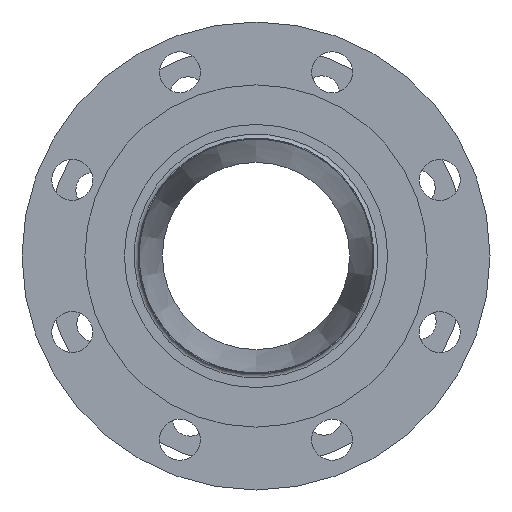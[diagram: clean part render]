
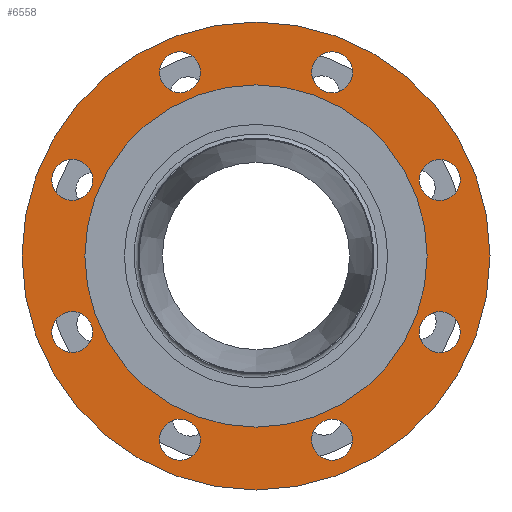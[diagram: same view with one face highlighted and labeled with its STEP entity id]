
A CAD part, front view. The second image highlights one B-rep face of the part: STEP entity #6558.
In plain terms, the highlighted planar face has unit normal (0, -1, 0) as drawn and (0, 1, 0) by its records, which use the part's own axes.
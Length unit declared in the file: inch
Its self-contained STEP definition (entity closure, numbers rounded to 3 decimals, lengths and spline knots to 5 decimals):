
#6219=CARTESIAN_POINT('',(-1.31705,0.6875,4.23585));
#6220=VERTEX_POINT('',#6219);
#6221=CARTESIAN_POINT('',(-1.6264,0.6875,3.92649));
#6222=DIRECTION('',(0.0,-1.0,0.0));
#6223=DIRECTION('',(0.707,0.0,0.707));
#6224=AXIS2_PLACEMENT_3D('',#6221,#6222,#6223);
#6225=CIRCLE('',#6224,0.4375);
#6226=EDGE_CURVE('',#6220,#6220,#6225,.T.);
#6247=CARTESIAN_POINT('',(-3.92649,0.6875,2.0639));
#6248=VERTEX_POINT('',#6247);
#6249=CARTESIAN_POINT('',(-3.92649,0.6875,1.6264));
#6250=DIRECTION('',(0.0,-1.0,0.0));
#6251=DIRECTION('',(0.0,0.0,1.0));
#6252=AXIS2_PLACEMENT_3D('',#6249,#6250,#6251);
#6253=CIRCLE('',#6252,0.4375);
#6254=EDGE_CURVE('',#6248,#6248,#6253,.T.);
#6275=CARTESIAN_POINT('',(-4.23585,0.6875,-1.31705));
#6276=VERTEX_POINT('',#6275);
#6277=CARTESIAN_POINT('',(-3.92649,0.6875,-1.6264));
#6278=DIRECTION('',(0.0,-1.0,0.0));
#6279=DIRECTION('',(-0.707,0.0,0.707));
#6280=AXIS2_PLACEMENT_3D('',#6277,#6278,#6279);
#6281=CIRCLE('',#6280,0.4375);
#6282=EDGE_CURVE('',#6276,#6276,#6281,.T.);
#6303=CARTESIAN_POINT('',(-2.0639,0.6875,-3.92649));
#6304=VERTEX_POINT('',#6303);
#6305=CARTESIAN_POINT('',(-1.6264,0.6875,-3.92649));
#6306=DIRECTION('',(0.0,-1.0,0.0));
#6307=DIRECTION('',(-1.0,0.0,0.0));
#6308=AXIS2_PLACEMENT_3D('',#6305,#6306,#6307);
#6309=CIRCLE('',#6308,0.4375);
#6310=EDGE_CURVE('',#6304,#6304,#6309,.T.);
#6331=CARTESIAN_POINT('',(1.31705,0.6875,-4.23585));
#6332=VERTEX_POINT('',#6331);
#6333=CARTESIAN_POINT('',(1.6264,0.6875,-3.92649));
#6334=DIRECTION('',(0.0,-1.0,0.0));
#6335=DIRECTION('',(-0.707,0.0,-0.707));
#6336=AXIS2_PLACEMENT_3D('',#6333,#6334,#6335);
#6337=CIRCLE('',#6336,0.4375);
#6338=EDGE_CURVE('',#6332,#6332,#6337,.T.);
#6359=CARTESIAN_POINT('',(3.92649,0.6875,-2.0639));
#6360=VERTEX_POINT('',#6359);
#6361=CARTESIAN_POINT('',(3.92649,0.6875,-1.6264));
#6362=DIRECTION('',(0.0,-1.0,0.0));
#6363=DIRECTION('',(0.0,0.0,-1.0));
#6364=AXIS2_PLACEMENT_3D('',#6361,#6362,#6363);
#6365=CIRCLE('',#6364,0.4375);
#6366=EDGE_CURVE('',#6360,#6360,#6365,.T.);
#6387=CARTESIAN_POINT('',(4.23585,0.6875,1.31705));
#6388=VERTEX_POINT('',#6387);
#6389=CARTESIAN_POINT('',(3.92649,0.6875,1.6264));
#6390=DIRECTION('',(0.0,-1.0,0.0));
#6391=DIRECTION('',(0.707,0.0,-0.707));
#6392=AXIS2_PLACEMENT_3D('',#6389,#6390,#6391);
#6393=CIRCLE('',#6392,0.4375);
#6394=EDGE_CURVE('',#6388,#6388,#6393,.T.);
#6415=CARTESIAN_POINT('',(2.0639,0.6875,3.92649));
#6416=VERTEX_POINT('',#6415);
#6417=CARTESIAN_POINT('',(1.6264,0.6875,3.92649));
#6418=DIRECTION('',(0.0,-1.0,0.0));
#6419=DIRECTION('',(1.0,0.0,0.0));
#6420=AXIS2_PLACEMENT_3D('',#6417,#6418,#6419);
#6421=CIRCLE('',#6420,0.4375);
#6422=EDGE_CURVE('',#6416,#6416,#6421,.T.);
#6443=CARTESIAN_POINT('',(3.65625,0.6875,0.));
#6444=VERTEX_POINT('',#6443);
#6445=CARTESIAN_POINT('',(0.0,0.6875,0.0));
#6446=DIRECTION('',(0.0,-1.0,0.0));
#6447=DIRECTION('',(-1.0,0.0,0.0));
#6448=AXIS2_PLACEMENT_3D('',#6445,#6446,#6447);
#6449=CIRCLE('',#6448,3.65625);
#6450=EDGE_CURVE('',#6444,#6444,#6449,.T.);
#6500=CARTESIAN_POINT('',(-5.0,0.6875,0.));
#6501=VERTEX_POINT('',#6500);
#6502=CARTESIAN_POINT('',(0.0,0.6875,0.0));
#6503=DIRECTION('',(0.0,-1.0,0.0));
#6504=DIRECTION('',(1.0,0.0,0.0));
#6505=AXIS2_PLACEMENT_3D('',#6502,#6503,#6504);
#6506=CIRCLE('',#6505,5.0);
#6507=EDGE_CURVE('',#6501,#6501,#6506,.T.);
#6523=CARTESIAN_POINT('',(0.0,0.6875,0.0));
#6524=DIRECTION('',(0.0,-1.0,0.0));
#6525=DIRECTION('',(0.0,0.0,-1.0));
#6526=AXIS2_PLACEMENT_3D('',#6523,#6524,#6525);
#6527=PLANE('',#6526);
#6528=ORIENTED_EDGE('',*,*,#6507,.F.);
#6529=EDGE_LOOP('',(#6528));
#6530=FACE_OUTER_BOUND('',#6529,.T.);
#6531=ORIENTED_EDGE('',*,*,#6226,.T.);
#6532=EDGE_LOOP('',(#6531));
#6533=FACE_BOUND('',#6532,.T.);
#6534=ORIENTED_EDGE('',*,*,#6254,.T.);
#6535=EDGE_LOOP('',(#6534));
#6536=FACE_BOUND('',#6535,.T.);
#6537=ORIENTED_EDGE('',*,*,#6282,.T.);
#6538=EDGE_LOOP('',(#6537));
#6539=FACE_BOUND('',#6538,.T.);
#6540=ORIENTED_EDGE('',*,*,#6310,.T.);
#6541=EDGE_LOOP('',(#6540));
#6542=FACE_BOUND('',#6541,.T.);
#6543=ORIENTED_EDGE('',*,*,#6338,.T.);
#6544=EDGE_LOOP('',(#6543));
#6545=FACE_BOUND('',#6544,.T.);
#6546=ORIENTED_EDGE('',*,*,#6366,.T.);
#6547=EDGE_LOOP('',(#6546));
#6548=FACE_BOUND('',#6547,.T.);
#6549=ORIENTED_EDGE('',*,*,#6394,.T.);
#6550=EDGE_LOOP('',(#6549));
#6551=FACE_BOUND('',#6550,.T.);
#6552=ORIENTED_EDGE('',*,*,#6422,.T.);
#6553=EDGE_LOOP('',(#6552));
#6554=FACE_BOUND('',#6553,.T.);
#6555=ORIENTED_EDGE('',*,*,#6450,.T.);
#6556=EDGE_LOOP('',(#6555));
#6557=FACE_BOUND('',#6556,.T.);
#6558=ADVANCED_FACE('',(#6530,#6533,#6536,#6539,#6542,#6545,#6548,#6551,#6554,#6557),#6527,.F.);
